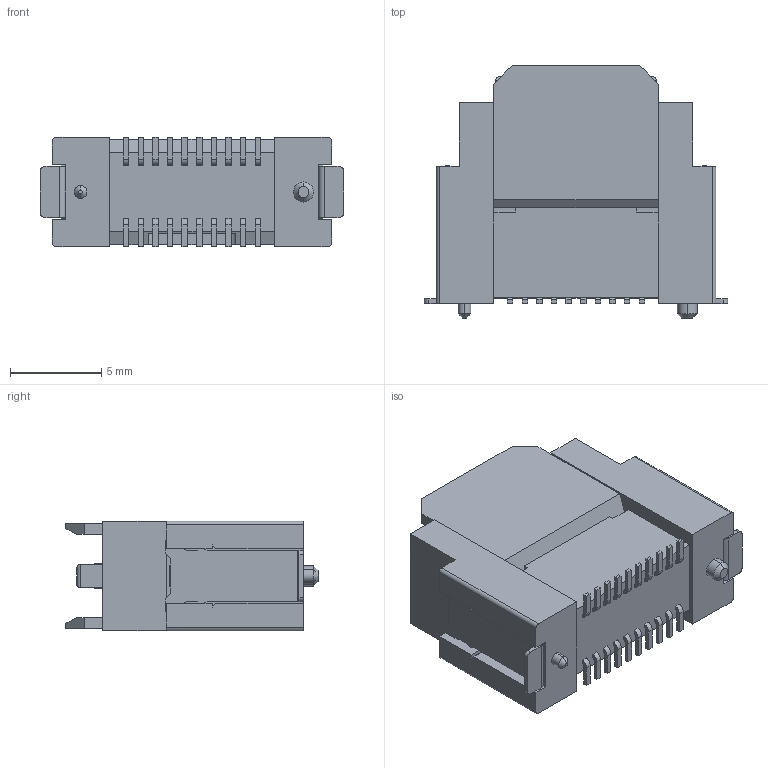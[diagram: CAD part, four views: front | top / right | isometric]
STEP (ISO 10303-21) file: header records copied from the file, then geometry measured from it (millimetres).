
FILE_DESCRIPTION (( 'STEP AP203' ), '1' );
FILE_NAME ('DFJ-PC020-S931130D(M)-FA.STEP', '2021-09-02T02:25:05', ( '' ), ( '' ), 'SwSTEP 2.0', 'SolidWorks 2018', '' );
FILE_SCHEMA (( 'CONFIG_CONTROL_DESIGN' ));
Length unit declared in the file: millimetre
Products named in the file (1): DFJ-PC020-S931130D(M)-FA
Bounding box: 16.6 x 13.8 x 6 mm (x, y, z)
Volume: 707.8 mm3; surface area: 1018.5 mm2
Topology: 1 solids, 1 shells, 464 faces, 1266 edges, 820 vertices
Faces by surface type: plane 356, cylinder 88, cone 12, bspline 6, torus 2
Entity records: 14611 total; most frequent: CARTESIAN_POINT 2765, ORIENTED_EDGE 2524, DIRECTION 2348, EDGE_CURVE 1262, VECTOR 1022, LINE 1022, VERTEX_POINT 820, AXIS2_PLACEMENT_3D 663
